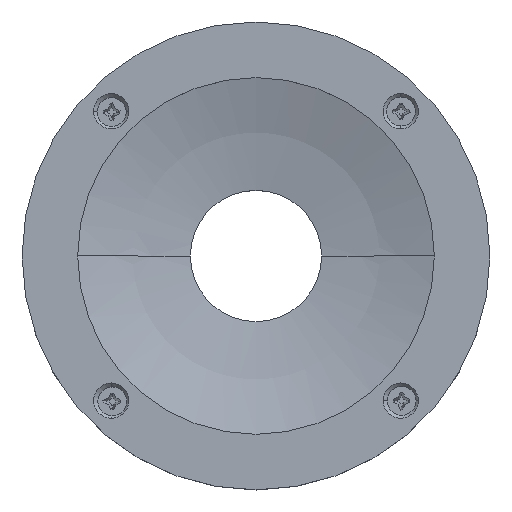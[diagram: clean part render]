
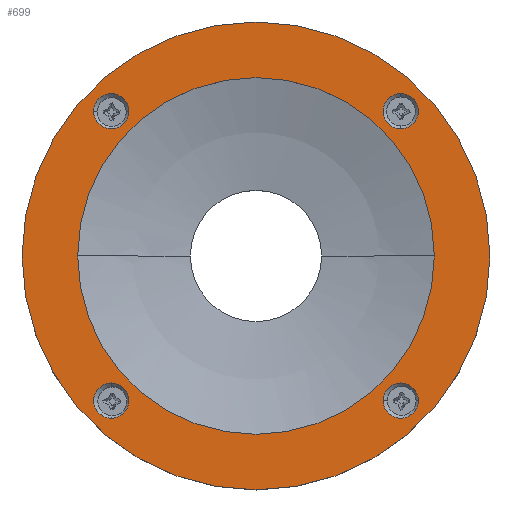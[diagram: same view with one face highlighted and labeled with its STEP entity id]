
A CAD part, top view. The second image highlights one B-rep face of the part: STEP entity #699.
In plain terms, the highlighted planar face has unit normal (0, 0, 1).
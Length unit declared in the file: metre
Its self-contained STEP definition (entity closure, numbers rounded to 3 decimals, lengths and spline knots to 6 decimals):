
#699=ADVANCED_FACE('2:11567',(#1501,#1502,#1503,#1504,#1505,#1506),#1507,.F.);
#1501=FACE_OUTER_BOUND('',#2419,.T.);
#1502=FACE_BOUND('',#2420,.T.);
#1503=FACE_BOUND('',#2421,.T.);
#1504=FACE_BOUND('',#2422,.T.);
#1505=FACE_BOUND('',#2423,.T.);
#1506=FACE_BOUND('',#2424,.T.);
#1507=PLANE('',#2425);
#2419=EDGE_LOOP('',(#4598,#4599));
#2420=EDGE_LOOP('',(#4600,#4601));
#2421=EDGE_LOOP('',(#4602,#4603));
#2422=EDGE_LOOP('',(#4604,#4605));
#2423=EDGE_LOOP('',(#4606,#4607));
#2424=EDGE_LOOP('',(#4608,#4609));
#2425=AXIS2_PLACEMENT_3D('',#4610,#4611,#4612);
#4598=ORIENTED_EDGE('',*,*,#6698,.F.);
#4599=ORIENTED_EDGE('',*,*,#6699,.F.);
#4600=ORIENTED_EDGE('',*,*,#6164,.T.);
#4601=ORIENTED_EDGE('',*,*,#6629,.T.);
#4602=ORIENTED_EDGE('',*,*,#6290,.T.);
#4603=ORIENTED_EDGE('',*,*,#6392,.T.);
#4604=ORIENTED_EDGE('',*,*,#6257,.T.);
#4605=ORIENTED_EDGE('',*,*,#6463,.T.);
#4606=ORIENTED_EDGE('',*,*,#6173,.T.);
#4607=ORIENTED_EDGE('',*,*,#6626,.T.);
#4608=ORIENTED_EDGE('',*,*,#6619,.F.);
#4609=ORIENTED_EDGE('',*,*,#6179,.F.);
#4610=CARTESIAN_POINT('',(-0.000001,0.000009,0.0135));
#4611=DIRECTION('',(0.0,0.0,-1.0));
#4612=DIRECTION('',(0.0,-1.0,0.0));
#6164=EDGE_CURVE('2:12428',#7840,#7837,#7841,.T.);
#6173=EDGE_CURVE('2:12410',#7857,#7854,#7858,.T.);
#6179=EDGE_CURVE('2:12407',#7865,#7868,#7869,.T.);
#6257=EDGE_CURVE('2:12416',#8000,#7997,#8001,.T.);
#6290=EDGE_CURVE('2:12422',#8054,#8051,#8055,.T.);
#6392=EDGE_CURVE('2:12422',#8051,#8054,#8205,.T.);
#6463=EDGE_CURVE('2:12416',#7997,#8000,#8305,.T.);
#6619=EDGE_CURVE('2:12407',#7868,#7865,#8523,.T.);
#6626=EDGE_CURVE('2:12410',#7854,#7857,#8534,.T.);
#6629=EDGE_CURVE('2:12428',#7837,#7840,#8537,.T.);
#6698=EDGE_CURVE('2:12530',#8624,#8625,#8626,.F.);
#6699=EDGE_CURVE('2:12530',#8625,#8624,#8627,.F.);
#7837=VERTEX_POINT('',#11272);
#7840=VERTEX_POINT('',#11276);
#7841=CIRCLE('',#11277,0.00336);
#7854=VERTEX_POINT('',#11339);
#7857=VERTEX_POINT('',#11343);
#7858=CIRCLE('',#11344,0.00336);
#7865=VERTEX_POINT('',#11364);
#7868=VERTEX_POINT('',#11368);
#7869=CIRCLE('',#11369,0.034);
#7997=VERTEX_POINT('',#11689);
#8000=VERTEX_POINT('',#11693);
#8001=CIRCLE('',#11694,0.00336);
#8051=VERTEX_POINT('',#11805);
#8054=VERTEX_POINT('',#11809);
#8055=CIRCLE('',#11810,0.00336);
#8205=CIRCLE('',#12129,0.00336);
#8305=CIRCLE('',#12289,0.00336);
#8523=CIRCLE('',#12616,0.034);
#8534=CIRCLE('',#12681,0.00336);
#8537=CIRCLE('',#12693,0.00336);
#8624=VERTEX_POINT('',#12790);
#8625=VERTEX_POINT('',#12791);
#8626=CIRCLE('',#12792,0.0446);
#8627=CIRCLE('',#12793,0.0446);
#11272=CARTESIAN_POINT('',(-0.030938,0.027586,0.0135));
#11276=CARTESIAN_POINT('',(-0.024218,0.027586,0.0135));
#11277=AXIS2_PLACEMENT_3D('',#14168,#14169,#14170);
#11339=CARTESIAN_POINT('',(0.027577,0.030946,0.0135));
#11343=CARTESIAN_POINT('',(0.027577,0.024226,0.0135));
#11344=AXIS2_PLACEMENT_3D('',#14176,#14177,#14178);
#11364=CARTESIAN_POINT('',(-0.034001,0.000009,0.0135));
#11368=CARTESIAN_POINT('',(0.033999,0.000009,0.0135));
#11369=AXIS2_PLACEMENT_3D('',#14184,#14185,#14186);
#11689=CARTESIAN_POINT('',(0.030937,-0.027568,0.0135));
#11693=CARTESIAN_POINT('',(0.024217,-0.027568,0.0135));
#11694=AXIS2_PLACEMENT_3D('',#14305,#14306,#14307);
#11805=CARTESIAN_POINT('',(-0.027578,-0.030928,0.0135));
#11809=CARTESIAN_POINT('',(-0.027578,-0.024208,0.0135));
#11810=AXIS2_PLACEMENT_3D('',#14355,#14356,#14357);
#12129=AXIS2_PLACEMENT_3D('',#14470,#14471,#14472);
#12289=AXIS2_PLACEMENT_3D('',#14542,#14543,#14544);
#12616=AXIS2_PLACEMENT_3D('',#14717,#14718,#14719);
#12681=AXIS2_PLACEMENT_3D('',#14720,#14721,#14722);
#12693=AXIS2_PLACEMENT_3D('',#14723,#14724,#14725);
#12790=CARTESIAN_POINT('',(0.044599,0.000009,0.0135));
#12791=CARTESIAN_POINT('',(-0.044601,0.000009,0.0135));
#12792=AXIS2_PLACEMENT_3D('',#14850,#14851,#14852);
#12793=AXIS2_PLACEMENT_3D('',#14853,#14854,#14855);
#14168=CARTESIAN_POINT('',(-0.027578,0.027586,0.0135));
#14169=DIRECTION('',(-0.0,0.0,-1.0));
#14170=DIRECTION('',(-1.0,0.,0.0));
#14176=CARTESIAN_POINT('',(0.027577,0.027586,0.0135));
#14177=DIRECTION('',(0.0,0.0,-1.0));
#14178=DIRECTION('',(0.,1.0,0.0));
#14184=CARTESIAN_POINT('',(-0.000001,0.000009,0.0135));
#14185=DIRECTION('',(0.0,0.0,1.0));
#14186=DIRECTION('',(-1.0,0.0,0.0));
#14305=CARTESIAN_POINT('',(0.027577,-0.027568,0.0135));
#14306=DIRECTION('',(0.0,0.0,-1.0));
#14307=DIRECTION('',(1.0,0.,0.0));
#14355=CARTESIAN_POINT('',(-0.027578,-0.027568,0.0135));
#14356=DIRECTION('',(0.0,0.0,-1.0));
#14357=DIRECTION('',(0.,-1.0,0.0));
#14470=CARTESIAN_POINT('',(-0.027578,-0.027568,0.0135));
#14471=DIRECTION('',(0.0,0.0,-1.0));
#14472=DIRECTION('',(0.,-1.0,0.0));
#14542=CARTESIAN_POINT('',(0.027577,-0.027568,0.0135));
#14543=DIRECTION('',(0.0,0.0,-1.0));
#14544=DIRECTION('',(1.0,0.,0.0));
#14717=CARTESIAN_POINT('',(-0.000001,0.000009,0.0135));
#14718=DIRECTION('',(0.0,0.0,1.0));
#14719=DIRECTION('',(-1.0,0.0,0.0));
#14720=CARTESIAN_POINT('',(0.027577,0.027586,0.0135));
#14721=DIRECTION('',(0.0,0.0,-1.0));
#14722=DIRECTION('',(0.,1.0,0.0));
#14723=CARTESIAN_POINT('',(-0.027578,0.027586,0.0135));
#14724=DIRECTION('',(-0.0,0.0,-1.0));
#14725=DIRECTION('',(-1.0,0.,0.0));
#14850=CARTESIAN_POINT('',(-0.000001,0.000009,0.0135));
#14851=DIRECTION('',(0.0,0.0,1.0));
#14852=DIRECTION('',(-1.0,0.0,0.0));
#14853=CARTESIAN_POINT('',(-0.000001,0.000009,0.0135));
#14854=DIRECTION('',(0.0,0.0,1.0));
#14855=DIRECTION('',(-1.0,0.0,0.0));
